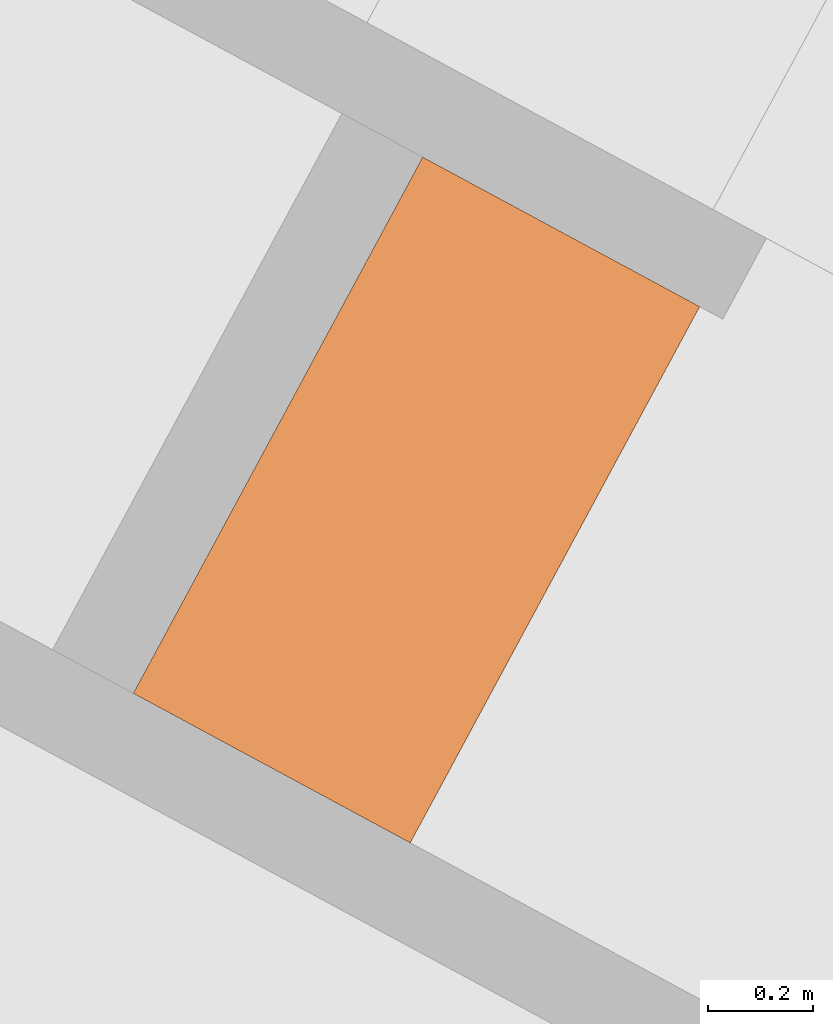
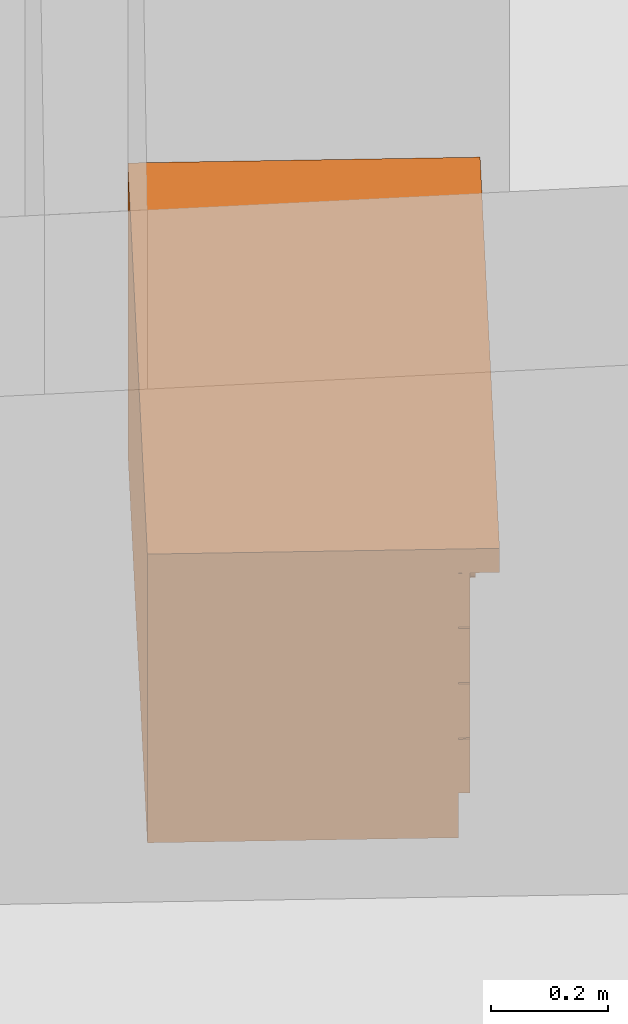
# One storey, part 51 of 52: 1 proxy.
"""IFC2X3 building model written with IfcOpenShell, lengths in metres."""

from ifc_helpers import new_model, entity, si_unit, converted_unit, derived_unit, money_unit, direction, frame, origin_with_axes, place, context, subcontext, project, spatial, faceted_brep, type_object, element, save


model = new_model("IFC2X3")

# Units and contexts
model_context = context("Model", 3, precision=1e-05, world=origin_with_axes(), true_north=direction((0.0, 1.0)))
body_context = subcontext(model_context, "Body", "Model", "MODEL_VIEW")
ifc_project = project(units=[si_unit("LENGTHUNIT", "METRE"), si_unit("AREAUNIT", "SQUARE_METRE"), si_unit("VOLUMEUNIT", "CUBIC_METRE"), converted_unit("PLANEANGLEUNIT", "DEGREE", entity("IfcPlaneAngleMeasure", 0.0174532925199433), si_unit("PLANEANGLEUNIT", "RADIAN"), dimensions=[0, 0, 0, 0, 0, 0, 0]), money_unit("EUR"), converted_unit("TIMEUNIT", "Year", entity("IfcTimeMeasure", 31556926.0), si_unit("TIMEUNIT", "SECOND"), dimensions=[0, 0, 1, 0, 0, 0, 0]), si_unit("MASSUNIT", "GRAM", prefix="KILO"), si_unit("THERMODYNAMICTEMPERATUREUNIT", "DEGREE_CELSIUS"), si_unit("LUMINOUSINTENSITYUNIT", "LUMEN"), si_unit("ENERGYUNIT", "JOULE", prefix="MEGA"), derived_unit("THERMALCONDUCTANCEUNIT", [(si_unit("POWERUNIT", "WATT"), 1), (si_unit("LENGTHUNIT", "METRE"), -1), (si_unit("THERMODYNAMICTEMPERATUREUNIT", "KELVIN"), -1)]), derived_unit("SPECIFICHEATCAPACITYUNIT", [(si_unit("ENERGYUNIT", "JOULE"), 1), (si_unit("MASSUNIT", "GRAM", prefix="KILO"), -1), (si_unit("THERMODYNAMICTEMPERATUREUNIT", "KELVIN"), -1)]), derived_unit("MASSDENSITYUNIT", [(si_unit("MASSUNIT", "GRAM", prefix="KILO"), 1), (si_unit("VOLUMEUNIT", "CUBIC_METRE"), -1)])], contexts=[model_context])

# Site, building, storey
site_placement = place(None, frame((-3.949935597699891, 1.740105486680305, 0.0), z_axis=(0.0, 0.0, 1.0), x_axis=(0.8799804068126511, -0.475009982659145, 0.0)))
site = spatial("IfcSite", under=ifc_project, at=site_placement, Name="Gelände", CompositionType="ELEMENT")
building_placement = place(site_placement, origin_with_axes())
building = spatial("IfcBuilding", under=site, at=building_placement, Name="Gebäude", CompositionType="ELEMENT")
storey_placement = place(building_placement, origin_with_axes())
storey = spatial("IfcBuildingStorey", under=building, at=storey_placement, Name="Erdgeschoss", CompositionType="ELEMENT", Elevation=0.0)

# Proxy
building_element_proxy_type = type_object("IfcBuildingElementProxyType", Name="Unterschrank Mehrfach-Schublade 22", PredefinedType="NOTDEFINED")
proxy_placement = place(storey_placement, frame((12.10273523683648, 15.87469599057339, 0.0), z_axis=(0.0, 0.0, 1.0), x_axis=(0.0, 1.0, 0.0)))
element("IfcBuildingElementProxy", 1, at=proxy_placement, inside=storey, type_object=building_element_proxy_type, Name="Objekt-0064", context=body_context, shape_type="Brep", body=[
    faceted_brep([(-0.001499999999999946, 0.07, 0.0915), (-0.001499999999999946, 0.05, 0.0915), (-1.160101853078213, 0.05, 0.0915), (-1.160101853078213, 0.07, 0.0915), (-0.001499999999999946, 0.07, 0.2035), (-0.001499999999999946, 0.05000000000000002, 0.2035), (-1.160101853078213, 0.05000000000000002, 0.2035), (-1.160101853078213, 0.07, 0.2035)], [[[0, 1, 2, 3]], [[4, 5, 1, 0]], [[1, 5, 6, 2]], [[3, 2, 6, 7]], [[0, 3, 7, 4]], [[7, 6, 5, 4]]]),
    faceted_brep([(-0.5762087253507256, 0.05, 0.1364134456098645), (-0.5808009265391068, 0.05, 0.1355), (-0.5853931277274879, 0.05, 0.1364134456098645), (-0.5892862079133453, 0.05, 0.1390147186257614), (-0.5918874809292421, 0.05, 0.1429077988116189), (-0.5928009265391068, 0.05, 0.1475), (-0.5918874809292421, 0.05, 0.1520922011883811), (-0.5892862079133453, 0.05, 0.1559852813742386), (-0.5853931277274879, 0.05, 0.1585865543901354), (-0.5808009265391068, 0.05, 0.1595), (-0.5762087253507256, 0.05, 0.1585865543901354), (-0.5723156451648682, 0.05, 0.1559852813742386), (-0.5697143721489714, 0.05, 0.1520922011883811), (-0.5688009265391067, 0.05, 0.1475), (-0.5697143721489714, 0.05, 0.1429077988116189), (-0.5723156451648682, 0.05, 0.1390147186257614), (-0.5762087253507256, 0.025, 0.1364134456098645), (-0.5808009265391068, 0.025, 0.1355), (-0.5853931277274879, 0.025, 0.1364134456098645), (-0.5892862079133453, 0.025, 0.1390147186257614), (-0.5918874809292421, 0.025, 0.1429077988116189), (-0.5928009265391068, 0.025, 0.1475), (-0.5918874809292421, 0.025, 0.1520922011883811), (-0.5892862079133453, 0.025, 0.1559852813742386), (-0.5853931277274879, 0.025, 0.1585865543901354), (-0.5808009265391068, 0.025, 0.1595), (-0.5762087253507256, 0.025, 0.1585865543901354), (-0.5723156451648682, 0.025, 0.1559852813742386), (-0.5697143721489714, 0.025, 0.1520922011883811), (-0.5688009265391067, 0.025, 0.1475), (-0.5697143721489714, 0.025, 0.1429077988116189), (-0.5723156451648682, 0.025, 0.1390147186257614)], [[[0, 1, 2, 3, 4, 5, 6, 7, 8, 9, 10, 11, 12, 13, 14, 15]], [[0, 16, 17, 1]], [[1, 17, 18, 2]], [[2, 18, 19, 3]], [[3, 19, 20, 4]], [[4, 20, 21, 5]], [[5, 21, 22, 6]], [[6, 22, 23, 7]], [[7, 23, 24, 8]], [[8, 24, 25, 9]], [[9, 25, 26, 10]], [[10, 26, 27, 11]], [[11, 27, 28, 12]], [[12, 28, 29, 13]], [[13, 29, 30, 14]], [[14, 30, 31, 15]], [[15, 31, 16, 0]], [[16, 31, 30, 29, 28, 27, 26, 25, 24, 23, 22, 21, 20, 19, 18, 17]]]),
    faceted_brep([(-0.001499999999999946, 0.07, 0.2065), (-0.001499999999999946, 0.05, 0.2065), (-1.160101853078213, 0.05, 0.2065), (-1.160101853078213, 0.07, 0.2065), (-0.001499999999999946, 0.07, 0.3185), (-0.001499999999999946, 0.05000000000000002, 0.3185), (-1.160101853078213, 0.05000000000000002, 0.3185), (-1.160101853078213, 0.07, 0.3185)], [[[0, 1, 2, 3]], [[4, 5, 1, 0]], [[1, 5, 6, 2]], [[3, 2, 6, 7]], [[0, 3, 7, 4]], [[7, 6, 5, 4]]]),
    faceted_brep([(-0.5762087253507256, 0.05, 0.2514134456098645), (-0.5808009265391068, 0.05, 0.2504999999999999), (-0.5853931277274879, 0.05, 0.2514134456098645), (-0.5892862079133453, 0.05, 0.2540147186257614), (-0.5918874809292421, 0.05, 0.2579077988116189), (-0.5928009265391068, 0.05, 0.2625), (-0.5918874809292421, 0.05, 0.2670922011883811), (-0.5892862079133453, 0.05, 0.2709852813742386), (-0.5853931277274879, 0.05, 0.2735865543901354), (-0.5808009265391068, 0.05, 0.2745), (-0.5762087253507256, 0.05, 0.2735865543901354), (-0.5723156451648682, 0.05, 0.2709852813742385), (-0.5697143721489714, 0.05, 0.267092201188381), (-0.5688009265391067, 0.05, 0.2625), (-0.5697143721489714, 0.05, 0.2579077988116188), (-0.5723156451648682, 0.05, 0.2540147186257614), (-0.5762087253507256, 0.025, 0.2514134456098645), (-0.5808009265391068, 0.025, 0.2504999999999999), (-0.5853931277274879, 0.025, 0.2514134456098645), (-0.5892862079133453, 0.025, 0.2540147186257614), (-0.5918874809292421, 0.025, 0.2579077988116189), (-0.5928009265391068, 0.025, 0.2625), (-0.5918874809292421, 0.025, 0.2670922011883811), (-0.5892862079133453, 0.025, 0.2709852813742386), (-0.5853931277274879, 0.025, 0.2735865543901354), (-0.5808009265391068, 0.025, 0.2745), (-0.5762087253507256, 0.025, 0.2735865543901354), (-0.5723156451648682, 0.025, 0.2709852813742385), (-0.5697143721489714, 0.025, 0.267092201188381), (-0.5688009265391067, 0.025, 0.2625), (-0.5697143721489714, 0.025, 0.2579077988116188), (-0.5723156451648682, 0.025, 0.2540147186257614)], [[[0, 1, 2, 3, 4, 5, 6, 7, 8, 9, 10, 11, 12, 13, 14, 15]], [[0, 16, 17, 1]], [[1, 17, 18, 2]], [[2, 18, 19, 3]], [[3, 19, 20, 4]], [[4, 20, 21, 5]], [[5, 21, 22, 6]], [[6, 22, 23, 7]], [[7, 23, 24, 8]], [[8, 24, 25, 9]], [[9, 25, 26, 10]], [[10, 26, 27, 11]], [[11, 27, 28, 12]], [[12, 28, 29, 13]], [[13, 29, 30, 14]], [[14, 30, 31, 15]], [[15, 31, 16, 0]], [[16, 31, 30, 29, 28, 27, 26, 25, 24, 23, 22, 21, 20, 19, 18, 17]]]),
    faceted_brep([(-0.02, 0.07, 0.205), (-0.02, 0.07, 0.225), (-1.141601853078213, 0.07, 0.225), (-1.141601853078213, 0.07, 0.205), (-0.02, 0.5799999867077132, 0.205), (-0.02, 0.5799999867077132, 0.225), (-1.141601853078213, 0.5799999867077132, 0.225), (-1.141601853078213, 0.5799999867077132, 0.205)], [[[0, 1, 2, 3]], [[4, 5, 1, 0]], [[1, 5, 6, 2]], [[3, 2, 6, 7]], [[0, 3, 7, 4]], [[7, 6, 5, 4]]]),
    faceted_brep([(-0.001499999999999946, 0.07, 0.3215), (-0.001499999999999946, 0.05, 0.3215), (-1.160101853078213, 0.05, 0.3215), (-1.160101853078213, 0.07, 0.3215), (-0.001499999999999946, 0.07, 0.4334999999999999), (-0.001499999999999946, 0.05000000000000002, 0.4334999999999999), (-1.160101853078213, 0.05000000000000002, 0.4334999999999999), (-1.160101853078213, 0.07, 0.4334999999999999)], [[[0, 1, 2, 3]], [[4, 5, 1, 0]], [[1, 5, 6, 2]], [[3, 2, 6, 7]], [[0, 3, 7, 4]], [[7, 6, 5, 4]]]),
    faceted_brep([(-0.5762087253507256, 0.05, 0.3664134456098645), (-0.5808009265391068, 0.05, 0.3654999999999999), (-0.5853931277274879, 0.05, 0.3664134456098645), (-0.5892862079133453, 0.05, 0.3690147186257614), (-0.5918874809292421, 0.05, 0.3729077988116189), (-0.5928009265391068, 0.05, 0.3774999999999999), (-0.5918874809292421, 0.05, 0.3820922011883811), (-0.5892862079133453, 0.05, 0.3859852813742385), (-0.5853931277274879, 0.05, 0.3885865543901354), (-0.5808009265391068, 0.05, 0.3895), (-0.5762087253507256, 0.05, 0.3885865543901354), (-0.5723156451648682, 0.05, 0.3859852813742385), (-0.5697143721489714, 0.05, 0.382092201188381), (-0.5688009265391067, 0.05, 0.3774999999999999), (-0.5697143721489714, 0.05, 0.3729077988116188), (-0.5723156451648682, 0.05, 0.3690147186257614), (-0.5762087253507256, 0.025, 0.3664134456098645), (-0.5808009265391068, 0.025, 0.3654999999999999), (-0.5853931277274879, 0.025, 0.3664134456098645), (-0.5892862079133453, 0.025, 0.3690147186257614), (-0.5918874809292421, 0.025, 0.3729077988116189), (-0.5928009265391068, 0.025, 0.3774999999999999), (-0.5918874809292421, 0.025, 0.3820922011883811), (-0.5892862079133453, 0.025, 0.3859852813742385), (-0.5853931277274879, 0.025, 0.3885865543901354), (-0.5808009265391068, 0.025, 0.3895), (-0.5762087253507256, 0.025, 0.3885865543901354), (-0.5723156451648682, 0.025, 0.3859852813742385), (-0.5697143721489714, 0.025, 0.382092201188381), (-0.5688009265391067, 0.025, 0.3774999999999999), (-0.5697143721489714, 0.025, 0.3729077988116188), (-0.5723156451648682, 0.025, 0.3690147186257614)], [[[0, 1, 2, 3, 4, 5, 6, 7, 8, 9, 10, 11, 12, 13, 14, 15]], [[0, 16, 17, 1]], [[1, 17, 18, 2]], [[2, 18, 19, 3]], [[3, 19, 20, 4]], [[4, 20, 21, 5]], [[5, 21, 22, 6]], [[6, 22, 23, 7]], [[7, 23, 24, 8]], [[8, 24, 25, 9]], [[9, 25, 26, 10]], [[10, 26, 27, 11]], [[11, 27, 28, 12]], [[12, 28, 29, 13]], [[13, 29, 30, 14]], [[14, 30, 31, 15]], [[15, 31, 16, 0]], [[16, 31, 30, 29, 28, 27, 26, 25, 24, 23, 22, 21, 20, 19, 18, 17]]]),
    faceted_brep([(-0.02, 0.07, 0.32), (-0.02, 0.07, 0.34), (-1.141601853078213, 0.07, 0.34), (-1.141601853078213, 0.07, 0.32), (-0.02, 0.5799999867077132, 0.32), (-0.02, 0.5799999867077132, 0.34), (-1.141601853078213, 0.5799999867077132, 0.34), (-1.141601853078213, 0.5799999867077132, 0.32)], [[[0, 1, 2, 3]], [[4, 5, 1, 0]], [[1, 5, 6, 2]], [[3, 2, 6, 7]], [[0, 3, 7, 4]], [[7, 6, 5, 4]]]),
    faceted_brep([(-0.001499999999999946, 0.07, 0.4364999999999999), (-0.001499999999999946, 0.05, 0.4364999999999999), (-1.160101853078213, 0.05, 0.4364999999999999), (-1.160101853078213, 0.07, 0.4364999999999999), (-0.001499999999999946, 0.07, 0.5485), (-0.001499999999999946, 0.05000000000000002, 0.5485), (-1.160101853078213, 0.05000000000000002, 0.5485), (-1.160101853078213, 0.07, 0.5485)], [[[0, 1, 2, 3]], [[4, 5, 1, 0]], [[1, 5, 6, 2]], [[3, 2, 6, 7]], [[0, 3, 7, 4]], [[7, 6, 5, 4]]]),
    faceted_brep([(-0.5762087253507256, 0.05, 0.4814134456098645), (-0.5808009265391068, 0.05, 0.4804999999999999), (-0.5853931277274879, 0.05, 0.4814134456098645), (-0.5892862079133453, 0.05, 0.4840147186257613), (-0.5918874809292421, 0.05, 0.4879077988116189), (-0.5928009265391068, 0.05, 0.4924999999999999), (-0.5918874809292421, 0.05, 0.497092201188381), (-0.5892862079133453, 0.05, 0.5009852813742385), (-0.5853931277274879, 0.05, 0.5035865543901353), (-0.5808009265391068, 0.05, 0.5045), (-0.5762087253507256, 0.05, 0.5035865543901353), (-0.5723156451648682, 0.05, 0.5009852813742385), (-0.5697143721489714, 0.05, 0.497092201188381), (-0.5688009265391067, 0.05, 0.4924999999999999), (-0.5697143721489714, 0.05, 0.4879077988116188), (-0.5723156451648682, 0.05, 0.4840147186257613), (-0.5762087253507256, 0.025, 0.4814134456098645), (-0.5808009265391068, 0.025, 0.4804999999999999), (-0.5853931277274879, 0.025, 0.4814134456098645), (-0.5892862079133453, 0.025, 0.4840147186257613), (-0.5918874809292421, 0.025, 0.4879077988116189), (-0.5928009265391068, 0.025, 0.4924999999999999), (-0.5918874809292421, 0.025, 0.497092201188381), (-0.5892862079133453, 0.025, 0.5009852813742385), (-0.5853931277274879, 0.025, 0.5035865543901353), (-0.5808009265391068, 0.025, 0.5045), (-0.5762087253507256, 0.025, 0.5035865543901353), (-0.5723156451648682, 0.025, 0.5009852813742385), (-0.5697143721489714, 0.025, 0.497092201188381), (-0.5688009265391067, 0.025, 0.4924999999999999), (-0.5697143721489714, 0.025, 0.4879077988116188), (-0.5723156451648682, 0.025, 0.4840147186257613)], [[[0, 1, 2, 3, 4, 5, 6, 7, 8, 9, 10, 11, 12, 13, 14, 15]], [[0, 16, 17, 1]], [[1, 17, 18, 2]], [[2, 18, 19, 3]], [[3, 19, 20, 4]], [[4, 20, 21, 5]], [[5, 21, 22, 6]], [[6, 22, 23, 7]], [[7, 23, 24, 8]], [[8, 24, 25, 9]], [[9, 25, 26, 10]], [[10, 26, 27, 11]], [[11, 27, 28, 12]], [[12, 28, 29, 13]], [[13, 29, 30, 14]], [[14, 30, 31, 15]], [[15, 31, 16, 0]], [[16, 31, 30, 29, 28, 27, 26, 25, 24, 23, 22, 21, 20, 19, 18, 17]]]),
    faceted_brep([(-0.02, 0.07, 0.4349999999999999), (-0.02, 0.07, 0.455), (-1.141601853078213, 0.07, 0.455), (-1.141601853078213, 0.07, 0.4349999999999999), (-0.02, 0.5799999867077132, 0.4349999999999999), (-0.02, 0.5799999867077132, 0.455), (-1.141601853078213, 0.5799999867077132, 0.455), (-1.141601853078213, 0.5799999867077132, 0.4349999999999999)], [[[0, 1, 2, 3]], [[4, 5, 1, 0]], [[1, 5, 6, 2]], [[3, 2, 6, 7]], [[0, 3, 7, 4]], [[7, 6, 5, 4]]]),
    faceted_brep([(0.0, 0.07, 0.0), (0.0, 0.07, 0.09), (-1.161601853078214, 0.07, 0.09), (-1.161601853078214, 0.07, 0.0), (0.0, 0.5999999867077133, 0.0), (0.0, 0.5999999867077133, 0.09), (-1.161601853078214, 0.5999999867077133, 0.09), (-1.161601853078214, 0.5999999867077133, 0.0)], [[[0, 1, 2, 3]], [[4, 5, 1, 0]], [[1, 5, 6, 2]], [[3, 2, 6, 7]], [[0, 3, 7, 4]], [[7, 6, 5, 4]]]),
    faceted_brep([(0.0, 0.07, 0.5299999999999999), (0.0, 0.07, 0.5499999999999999), (-0.02, 0.07, 0.5499999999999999), (-0.02, 0.07, 0.5299999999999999), (0.0, 0.5999999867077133, 0.5299999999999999), (0.0, 0.5999999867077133, 0.5499999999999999), (-0.02, 0.5999999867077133, 0.5499999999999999), (-1.141601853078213, 0.5999999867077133, 0.5499999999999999), (-1.161601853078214, 0.5999999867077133, 0.5499999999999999), (-1.161601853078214, 0.07, 0.5499999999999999), (-1.141601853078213, 0.07, 0.5499999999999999), (-1.141601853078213, 0.07, 0.5299999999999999), (-1.161601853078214, 0.07, 0.5299999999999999), (-1.161601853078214, 0.5999999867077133, 0.5299999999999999), (-1.141601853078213, 0.5999999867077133, 0.5299999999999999), (-0.02, 0.5999999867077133, 0.5299999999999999)], [[[0, 1, 2, 3]], [[4, 5, 1, 0]], [[1, 5, 6, 7, 8, 9, 10, 2]], [[3, 2, 10, 11]], [[0, 3, 11, 12, 13, 14, 15, 4]], [[15, 6, 5, 4]], [[14, 7, 6, 15]], [[13, 8, 7, 14]], [[12, 9, 8, 13]], [[11, 10, 9, 12]]]),
    faceted_brep([(0.0, 0.07, 0.09), (0.0, 0.07, 0.11), (-0.02, 0.07, 0.11), (-0.02, 0.07, 0.09), (0.0, 0.5999999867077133, 0.09), (0.0, 0.5999999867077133, 0.11), (-0.02, 0.5999999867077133, 0.11), (-1.141601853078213, 0.5999999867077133, 0.11), (-1.161601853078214, 0.5999999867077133, 0.11), (-1.161601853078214, 0.07, 0.11), (-1.141601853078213, 0.07, 0.11), (-1.141601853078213, 0.07, 0.09), (-1.161601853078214, 0.07, 0.09), (-1.161601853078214, 0.5999999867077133, 0.09), (-1.141601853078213, 0.5999999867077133, 0.09), (-0.02, 0.5999999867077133, 0.09)], [[[0, 1, 2, 3]], [[4, 5, 1, 0]], [[1, 5, 6, 7, 8, 9, 10, 2]], [[3, 2, 10, 11]], [[0, 3, 11, 12, 13, 14, 15, 4]], [[15, 6, 5, 4]], [[14, 7, 6, 15]], [[13, 8, 7, 14]], [[12, 9, 8, 13]], [[11, 10, 9, 12]]]),
    faceted_brep([(0.0, 0.07, 0.11), (0.0, 0.07, 0.53), (-0.02, 0.07, 0.53), (-0.02, 0.07, 0.11), (0.0, 0.5999999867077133, 0.11), (0.0, 0.5999999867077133, 0.53), (-1.161601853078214, 0.5999999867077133, 0.53), (-1.161601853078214, 0.07, 0.53), (-1.141601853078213, 0.07, 0.53), (-1.141601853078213, 0.5799999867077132, 0.53), (-0.02, 0.5799999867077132, 0.53), (-0.02, 0.5799999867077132, 0.11), (-1.141601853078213, 0.5799999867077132, 0.11), (-1.141601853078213, 0.07, 0.11), (-1.161601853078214, 0.07, 0.11), (-1.161601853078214, 0.5999999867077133, 0.11)], [[[0, 1, 2, 3]], [[4, 5, 1, 0]], [[1, 5, 6, 7, 8, 9, 10, 2]], [[3, 2, 10, 11]], [[0, 3, 11, 12, 13, 14, 15, 4]], [[15, 6, 5, 4]], [[14, 7, 6, 15]], [[13, 8, 7, 14]], [[12, 9, 8, 13]], [[11, 10, 9, 12]]]),
    faceted_brep([(0.0, 0.0, 0.5499999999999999), (0.0, 0.0, 0.6), (-1.161601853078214, 0.0, 0.6), (-1.161601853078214, 0.0, 0.5499999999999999), (0.0, 0.5999999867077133, 0.5499999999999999), (0.0, 0.5999999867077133, 0.6), (-1.161601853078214, 0.5999999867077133, 0.6), (-1.161601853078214, 0.5999999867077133, 0.5499999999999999)], [[[0, 1, 2, 3]], [[4, 5, 1, 0]], [[1, 5, 6, 2]], [[3, 2, 6, 7]], [[0, 3, 7, 4]], [[7, 6, 5, 4]]]),
])

save(model, "model.ifc")
